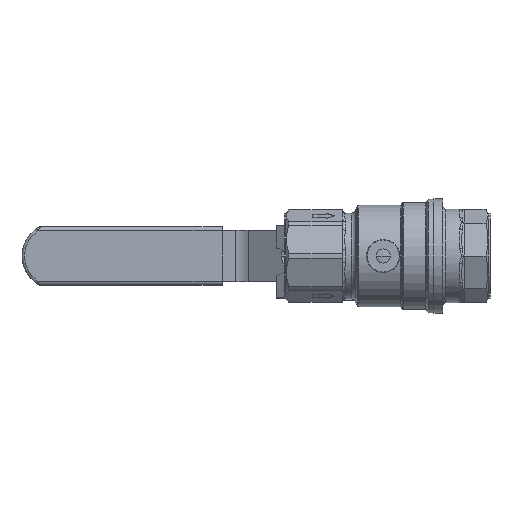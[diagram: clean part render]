
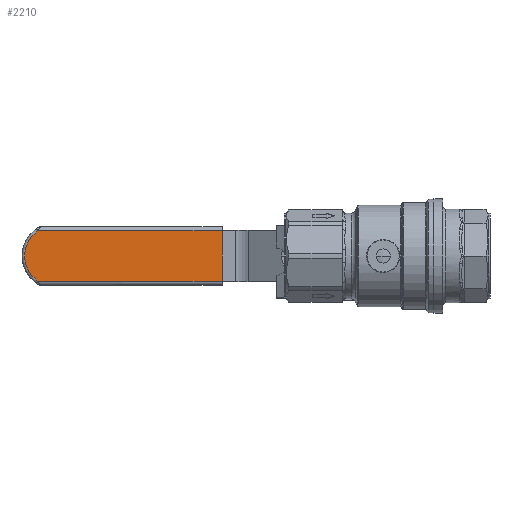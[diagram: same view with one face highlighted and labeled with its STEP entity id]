
A CAD part, front view. The second image highlights one B-rep face of the part: STEP entity #2210.
In plain terms, the highlighted planar face has unit normal (0, -1, 0).
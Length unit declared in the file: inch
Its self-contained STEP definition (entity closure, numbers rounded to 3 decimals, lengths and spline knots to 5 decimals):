
#781 = CARTESIAN_POINT ( 'NONE',  ( -1.82, 1.82, -0.283 ) ) ;
#854 = VERTEX_POINT ( 'NONE', #14719 ) ;
#1082 = DIRECTION ( 'NONE',  ( 0., -1., 0. ) ) ;
#1492 = LINE ( 'NONE', #17110, #17568 ) ;
#1591 = DIRECTION ( 'NONE',  ( -1., 0., 0. ) ) ;
#1990 = LINE ( 'NONE', #13516, #11580 ) ;
#2179 = DIRECTION ( 'NONE',  ( -1., 0., 0. ) ) ;
#2210 = ADVANCED_FACE ( 'NONE', ( #16400 ), #10543, .T. ) ;
#3022 = ORIENTED_EDGE ( 'NONE', *, *, #16426, .T. ) ;
#3979 = AXIS2_PLACEMENT_3D ( 'NONE', #781, #4961, #13522 ) ;
#4055 = EDGE_CURVE ( 'NONE', #8150, #854, #1990, .T. ) ;
#4961 = DIRECTION ( 'NONE',  ( 0., -1., 0. ) ) ;
#5722 = CARTESIAN_POINT ( 'NONE',  ( -1.82, 1.82, -0.283 ) ) ;
#5818 = DIRECTION ( 'NONE',  ( 0., 0., 1. ) ) ;
#5975 = CIRCLE ( 'NONE', #10729, 0.34378 ) ;
#6321 = EDGE_CURVE ( 'NONE', #16824, #854, #5975, .T. ) ;
#7106 = CARTESIAN_POINT ( 'NONE',  ( -3.9014, 1.82, 0.283 ) ) ;
#8150 = VERTEX_POINT ( 'NONE', #10706 ) ;
#8423 = EDGE_CURVE ( 'NONE', #16033, #16824, #1492, .T. ) ;
#9980 = VECTOR ( 'NONE', #5818, 39.37008 ) ;
#10543 = PLANE ( 'NONE',  #3979 ) ;
#10706 = CARTESIAN_POINT ( 'NONE',  ( -1.82, 1.82, -0.283 ) ) ;
#10729 = AXIS2_PLACEMENT_3D ( 'NONE', #12682, #1082, #11206 ) ;
#11206 = DIRECTION ( 'NONE',  ( 0., 0., -1. ) ) ;
#11477 = ORIENTED_EDGE ( 'NONE', *, *, #6321, .T. ) ;
#11580 = VECTOR ( 'NONE', #2179, 39.37008 ) ;
#11667 = ORIENTED_EDGE ( 'NONE', *, *, #8423, .T. ) ;
#12682 = CARTESIAN_POINT ( 'NONE',  ( -3.70622, 1.82, 0. ) ) ;
#12720 = EDGE_LOOP ( 'NONE', ( #11667, #11477, #16219, #3022 ) ) ;
#13516 = CARTESIAN_POINT ( 'NONE',  ( -1.82, 1.82, -0.283 ) ) ;
#13522 = DIRECTION ( 'NONE',  ( 0., 0., -1. ) ) ;
#14719 = CARTESIAN_POINT ( 'NONE',  ( -3.9014, 1.82, -0.283 ) ) ;
#16033 = VERTEX_POINT ( 'NONE', #18405 ) ;
#16219 = ORIENTED_EDGE ( 'NONE', *, *, #4055, .F. ) ;
#16400 = FACE_OUTER_BOUND ( 'NONE', #12720, .T. ) ;
#16426 = EDGE_CURVE ( 'NONE', #8150, #16033, #16800, .T. ) ;
#16800 = LINE ( 'NONE', #5722, #9980 ) ;
#16824 = VERTEX_POINT ( 'NONE', #7106 ) ;
#17110 = CARTESIAN_POINT ( 'NONE',  ( -1.82, 1.82, 0.283 ) ) ;
#17568 = VECTOR ( 'NONE', #1591, 39.37008 ) ;
#18405 = CARTESIAN_POINT ( 'NONE',  ( -1.82, 1.82, 0.283 ) ) ;
